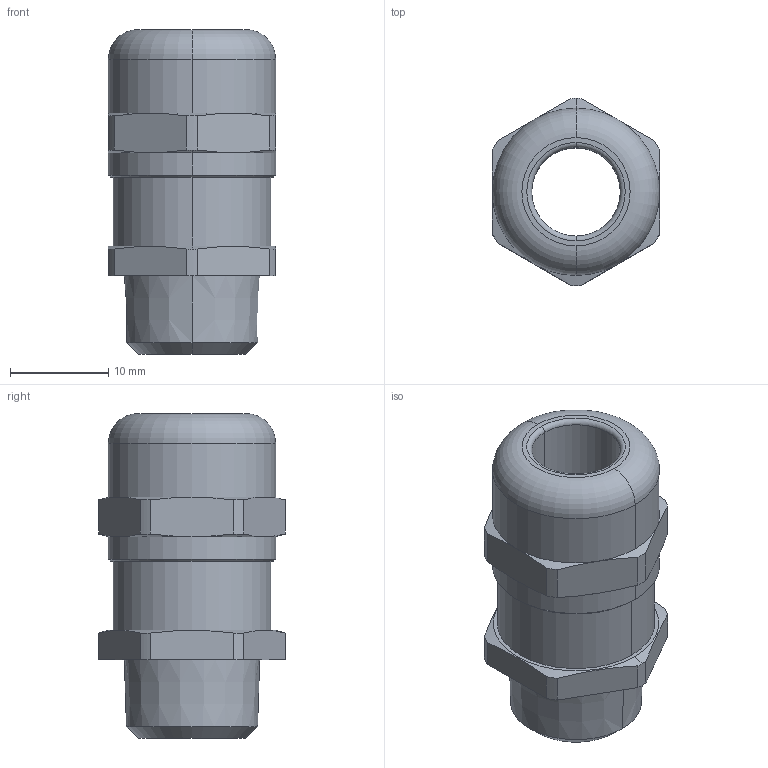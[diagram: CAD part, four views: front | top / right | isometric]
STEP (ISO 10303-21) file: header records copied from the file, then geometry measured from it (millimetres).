
FILE_DESCRIPTION (( 'STEP AP203' ), '1' );
FILE_NAME ('50.114-EMV-R.STEP', '2006-10-10T11:18:34', ( ' ' ), ( '' ), 'SwSTEP 2.0', 'SolidWorks 2005278', '' );
FILE_SCHEMA (( 'CONFIG_CONTROL_DESIGN' ));
Length unit declared in the file: millimetre
Products named in the file (1): 50.114-EMV-R
Bounding box: 17 x 19 x 33 mm (x, y, z)
Volume: 4561.1 mm3; surface area: 2942.3 mm2
Topology: 1 solids, 1 shells, 102 faces, 258 edges, 164 vertices
Faces by surface type: plane 54, cylinder 22, cone 22, torus 4
Entity records: 3177 total; most frequent: CARTESIAN_POINT 635, ORIENTED_EDGE 516, DIRECTION 510, EDGE_CURVE 258, AXIS2_PLACEMENT_3D 179, VERTEX_POINT 164, VECTOR 152, LINE 152
